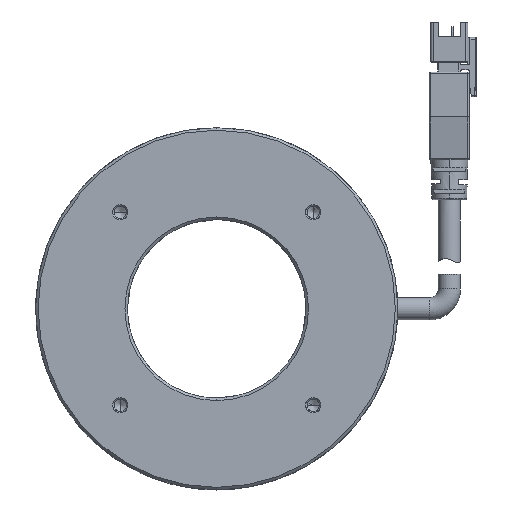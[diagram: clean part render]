
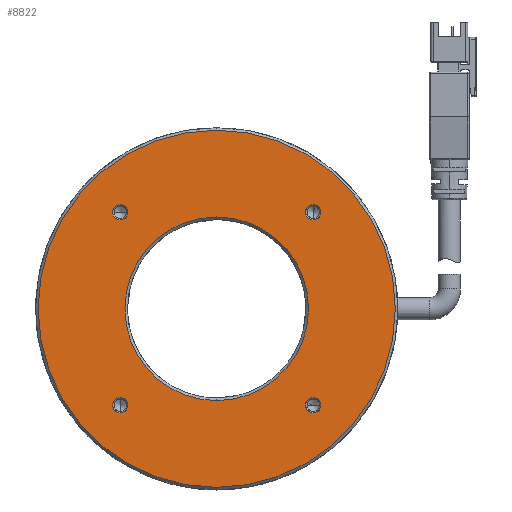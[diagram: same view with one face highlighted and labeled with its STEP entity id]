
A CAD part, top view. The second image highlights one B-rep face of the part: STEP entity #8822.
In plain terms, the highlighted planar face has unit normal (0, 0, 1).
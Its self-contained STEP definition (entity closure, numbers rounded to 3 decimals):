
#1469=CARTESIAN_POINT('',(19.445,19.445,1.5));
#1470=DIRECTION('',(0.,0.,-1.));
#1471=DIRECTION('',(0.,-1.,0.));
#1472=AXIS2_PLACEMENT_3D('',#1469,#1470,#1471);
#1474=CARTESIAN_POINT('',(19.445,19.445,1.5));
#1475=DIRECTION('',(0.,0.,-1.));
#1476=DIRECTION('',(0.,1.,0.));
#1477=AXIS2_PLACEMENT_3D('',#1474,#1475,#1476);
#1479=CARTESIAN_POINT('',(-19.445,-19.445,1.5));
#1480=DIRECTION('',(0.,0.,-1.));
#1481=DIRECTION('',(0.,1.,0.));
#1482=AXIS2_PLACEMENT_3D('',#1479,#1480,#1481);
#1484=CARTESIAN_POINT('',(-19.445,-19.445,1.5));
#1485=DIRECTION('',(0.,0.,-1.));
#1486=DIRECTION('',(0.,-1.,0.));
#1487=AXIS2_PLACEMENT_3D('',#1484,#1485,#1486);
#1489=CARTESIAN_POINT('',(0.,0.,1.5));
#1490=DIRECTION('',(0.,0.,-1.));
#1491=DIRECTION('',(0.,1.,0.));
#1492=AXIS2_PLACEMENT_3D('',#1489,#1490,#1491);
#1494=CARTESIAN_POINT('',(0.,0.,1.5));
#1495=DIRECTION('',(0.,0.,-1.));
#1496=DIRECTION('',(0.,-1.,0.));
#1497=AXIS2_PLACEMENT_3D('',#1494,#1495,#1496);
#1499=CARTESIAN_POINT('',(0.,0.,1.5));
#1500=DIRECTION('',(0.,0.,1.));
#1501=DIRECTION('',(0.,1.,0.));
#1502=AXIS2_PLACEMENT_3D('',#1499,#1500,#1501);
#1504=CARTESIAN_POINT('',(0.,0.,1.5));
#1505=DIRECTION('',(0.,0.,1.));
#1506=DIRECTION('',(0.,-1.,0.));
#1507=AXIS2_PLACEMENT_3D('',#1504,#1505,#1506);
#1557=CARTESIAN_POINT('',(19.445,-19.445,1.5));
#1558=DIRECTION('',(0.,0.,-1.));
#1559=DIRECTION('',(-1.,0.,0.));
#1560=AXIS2_PLACEMENT_3D('',#1557,#1558,#1559);
#1571=CARTESIAN_POINT('',(19.445,-19.445,1.5));
#1572=DIRECTION('',(0.,0.,-1.));
#1573=DIRECTION('',(1.,0.,0.));
#1574=AXIS2_PLACEMENT_3D('',#1571,#1572,#1573);
#1655=CARTESIAN_POINT('',(-19.445,19.445,1.5));
#1656=DIRECTION('',(0.,0.,-1.));
#1657=DIRECTION('',(-1.,0.,0.));
#1658=AXIS2_PLACEMENT_3D('',#1655,#1656,#1657);
#1669=CARTESIAN_POINT('',(-19.445,19.445,1.5));
#1670=DIRECTION('',(0.,0.,-1.));
#1671=DIRECTION('',(1.,0.,0.));
#1672=AXIS2_PLACEMENT_3D('',#1669,#1670,#1671);
#5502=CARTESIAN_POINT('',(0.,-36.,1.5));
#5503=CARTESIAN_POINT('',(0.,36.,1.5));
#5504=VERTEX_POINT('',#5502);
#5505=VERTEX_POINT('',#5503);
#5506=CARTESIAN_POINT('',(0.,-18.5,1.5));
#5507=CARTESIAN_POINT('',(0.,18.5,1.5));
#5508=VERTEX_POINT('',#5506);
#5509=VERTEX_POINT('',#5507);
#5510=CARTESIAN_POINT('',(-19.445,-20.995,1.5));
#5511=CARTESIAN_POINT('',(-19.445,-17.895,1.5));
#5512=VERTEX_POINT('',#5510);
#5513=VERTEX_POINT('',#5511);
#5514=CARTESIAN_POINT('',(19.445,20.995,1.5));
#5515=CARTESIAN_POINT('',(19.445,17.895,1.5));
#5516=VERTEX_POINT('',#5514);
#5517=VERTEX_POINT('',#5515);
#5561=CARTESIAN_POINT('',(-20.995,19.445,1.5));
#5563=VERTEX_POINT('',#5561);
#5566=CARTESIAN_POINT('',(-17.895,19.445,1.5));
#5568=VERTEX_POINT('',#5566);
#5585=CARTESIAN_POINT('',(17.895,-19.445,1.5));
#5587=VERTEX_POINT('',#5585);
#5590=CARTESIAN_POINT('',(20.995,-19.445,1.5));
#5592=VERTEX_POINT('',#5590);
#8783=CARTESIAN_POINT('',(0.,0.,1.5));
#8784=DIRECTION('',(0.,0.,-1.));
#8785=DIRECTION('',(0.,1.,0.));
#8786=AXIS2_PLACEMENT_3D('',#8783,#8784,#8785);
#8787=PLANE('',#8786);
#8789=ORIENTED_EDGE('',*,*,#8788,.F.);
#8791=ORIENTED_EDGE('',*,*,#8790,.F.);
#8792=EDGE_LOOP('',(#8789,#8791));
#8793=FACE_OUTER_BOUND('',#8792,.F.);
#8795=ORIENTED_EDGE('',*,*,#8794,.F.);
#8797=ORIENTED_EDGE('',*,*,#8796,.F.);
#8798=EDGE_LOOP('',(#8795,#8797));
#8799=FACE_BOUND('',#8798,.F.);
#8801=ORIENTED_EDGE('',*,*,#8800,.F.);
#8803=ORIENTED_EDGE('',*,*,#8802,.F.);
#8804=EDGE_LOOP('',(#8801,#8803));
#8805=FACE_BOUND('',#8804,.F.);
#8807=ORIENTED_EDGE('',*,*,#8806,.F.);
#8809=ORIENTED_EDGE('',*,*,#8808,.F.);
#8810=EDGE_LOOP('',(#8807,#8809));
#8811=FACE_BOUND('',#8810,.F.);
#8812=ORIENTED_EDGE('',*,*,#8762,.F.);
#8813=ORIENTED_EDGE('',*,*,#8776,.F.);
#8814=EDGE_LOOP('',(#8812,#8813));
#8815=FACE_BOUND('',#8814,.F.);
#8817=ORIENTED_EDGE('',*,*,#8816,.F.);
#8819=ORIENTED_EDGE('',*,*,#8818,.F.);
#8820=EDGE_LOOP('',(#8817,#8819));
#8821=FACE_BOUND('',#8820,.F.);
#8822=ADVANCED_FACE('',(#8793,#8799,#8805,#8811,#8815,#8821),#8787,.F.);
#1473=CIRCLE('',#1472,1.55);
#1478=CIRCLE('',#1477,1.55);
#1483=CIRCLE('',#1482,1.55);
#1488=CIRCLE('',#1487,1.55);
#1493=CIRCLE('',#1492,18.5);
#1498=CIRCLE('',#1497,18.5);
#1503=CIRCLE('',#1502,36.);
#1508=CIRCLE('',#1507,36.);
#1561=CIRCLE('',#1560,1.55);
#1575=CIRCLE('',#1574,1.55);
#1659=CIRCLE('',#1658,1.55);
#1673=CIRCLE('',#1672,1.55);
#8762=EDGE_CURVE('',#5509,#5508,#1493,.T.);
#8776=EDGE_CURVE('',#5508,#5509,#1498,.T.);
#8788=EDGE_CURVE('',#5505,#5504,#1503,.T.);
#8790=EDGE_CURVE('',#5504,#5505,#1508,.T.);
#8794=EDGE_CURVE('',#5587,#5592,#1561,.T.);
#8796=EDGE_CURVE('',#5592,#5587,#1575,.T.);
#8800=EDGE_CURVE('',#5513,#5512,#1483,.T.);
#8802=EDGE_CURVE('',#5512,#5513,#1488,.T.);
#8806=EDGE_CURVE('',#5563,#5568,#1659,.T.);
#8808=EDGE_CURVE('',#5568,#5563,#1673,.T.);
#8816=EDGE_CURVE('',#5517,#5516,#1473,.T.);
#8818=EDGE_CURVE('',#5516,#5517,#1478,.T.);
